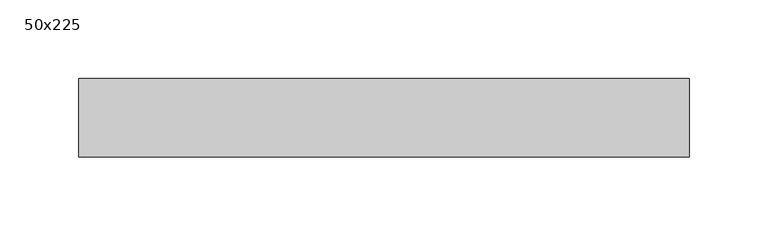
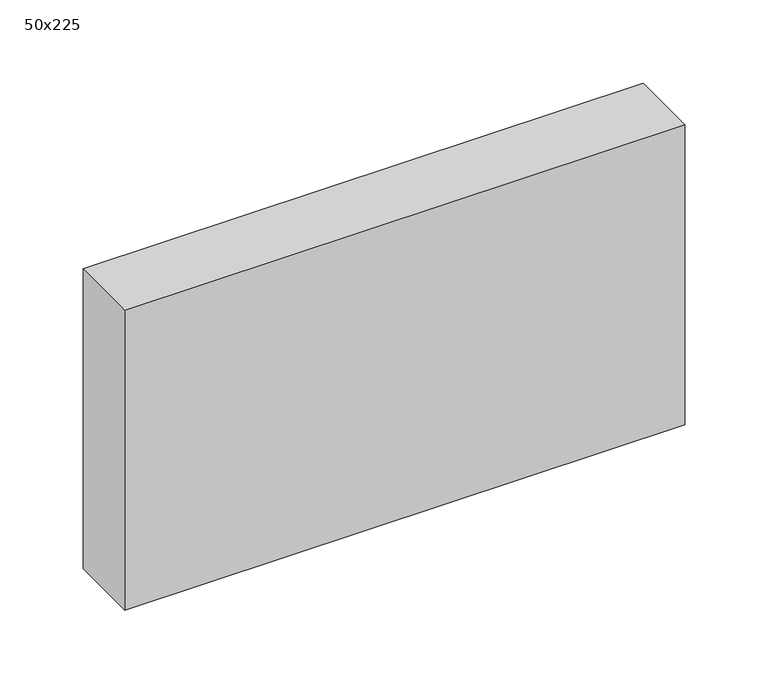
"""IFC4 building model written with IfcOpenShell, lengths in millimetres: beam geometry, Graded Timber : 50x225."""

from ifc_helpers import new_model, si_unit, frame, origin, place, context, project, spatial, polyline, outline, extrude, source, transform, mapped, element, save


def beam_50x225_a9e0d944(model_context):
    return source(origin(), model_context, "Body", "SweptSolid", [
        extrude(outline(polyline([(194.0, 25.0), (194.0, -25.0), (-194.0, -25.0), (-194.0, 25.0), (194.0, 25.0)])), frame((0.0, 0.0, -110.0), z_axis=(0.0, 0.0, 1.0), x_axis=(1.0, 0.0, 0.0)), (0.0, 0.0, 1.0), 220.0),
    ])


if __name__ == "__main__":
    model = new_model("IFC4")
    model_context = context("Model", 3, world=origin())
    ifc_project = project(units=[si_unit("LENGTHUNIT", "METRE", prefix="MILLI")], contexts=[model_context])
    site = spatial("IfcSite", under=ifc_project)
    building = spatial("IfcBuilding", under=site)
    placement = place(None, origin())
    beam_50x225_shape = beam_50x225_a9e0d944(model_context)
    element("IfcBeam", 1, ObjectType="Graded Timber : 50x225", at=placement, inside=building, context=model_context, shape_type="MappedRepresentation", body=[
        mapped(beam_50x225_shape, transform((0.0, 0.0, 0.0), x_axis=(1.0, 0.0, 0.0), y_axis=(0.0, 1.0, 0.0), z_axis=(0.0, 0.0, 1.0))),
    ])
    save(model, "model.ifc")
